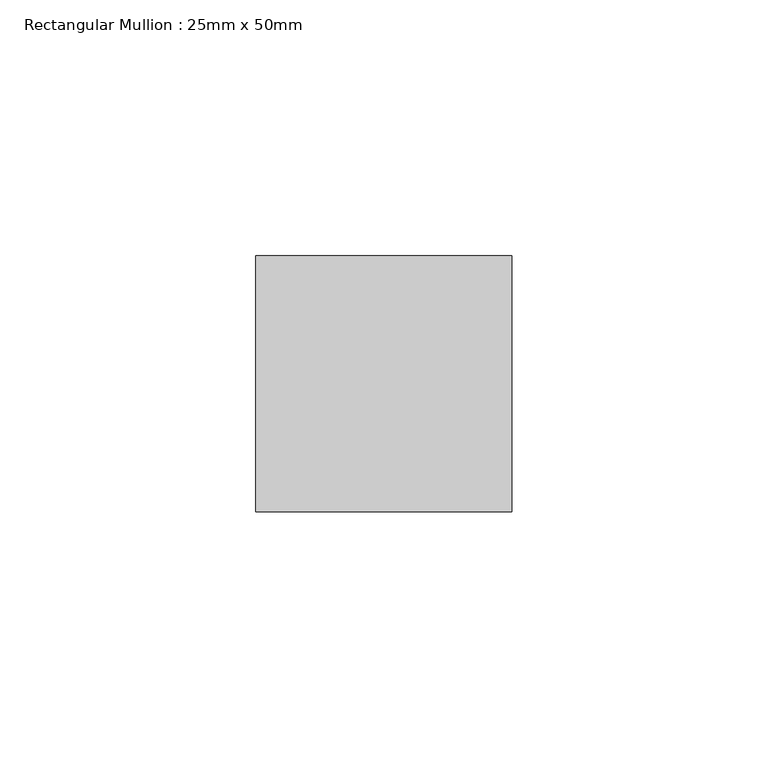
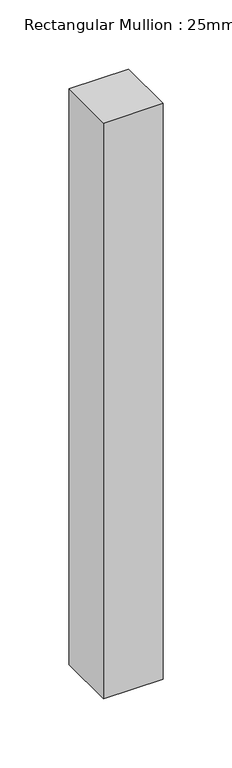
"""IFC4 building model written with IfcOpenShell, lengths in millimetres: member geometry, Rectangular Mullion : 25mm x 50mm."""

from ifc_helpers import new_model, si_unit, frame, origin, place, context, project, spatial, polyline, outline, extrude, source, transform, mapped, element, save


def rectangular_mullion_25mm_x_50mm_4904bab3(model_context):
    return source(origin(), model_context, "Body", "SweptSolid", [
        extrude(outline(polyline([(25.0, 25.0), (25.0, -25.0), (-25.0, -25.0), (-25.0, 25.0), (25.0, 25.0)])), frame((0.0, 0.0, -509.420565), z_axis=(0.0, 0.0, 1.0), x_axis=(1.0, 0.0, 0.0)), (0.0, 0.0, 1.0), 509.420565),
    ])


if __name__ == "__main__":
    model = new_model("IFC4")
    model_context = context("Model", 3, world=origin())
    ifc_project = project(units=[si_unit("LENGTHUNIT", "METRE", prefix="MILLI")], contexts=[model_context])
    site = spatial("IfcSite", under=ifc_project)
    building = spatial("IfcBuilding", under=site)
    placement = place(None, origin())
    rectangular_mullion_25mm_x_50mm_shape = rectangular_mullion_25mm_x_50mm_4904bab3(model_context)
    element("IfcMember", 1, ObjectType="Rectangular Mullion : 25mm x 50mm", at=placement, inside=building, context=model_context, shape_type="MappedRepresentation", body=[
        mapped(rectangular_mullion_25mm_x_50mm_shape, transform((0.0, 0.0, 0.0), x_axis=(1.0, 0.0, 0.0), y_axis=(0.0, 1.0, 0.0), z_axis=(0.0, 0.0, 1.0))),
    ])
    save(model, "model.ifc")
